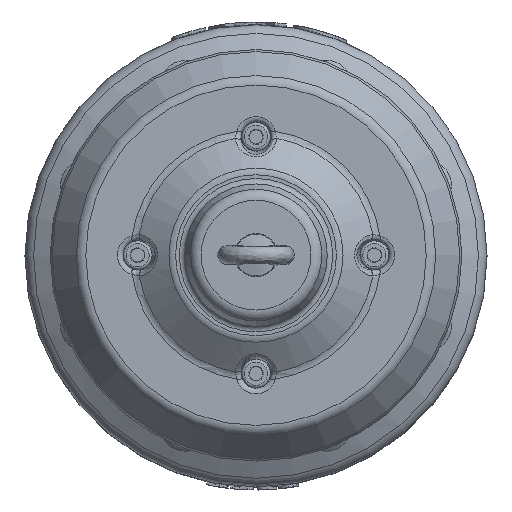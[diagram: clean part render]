
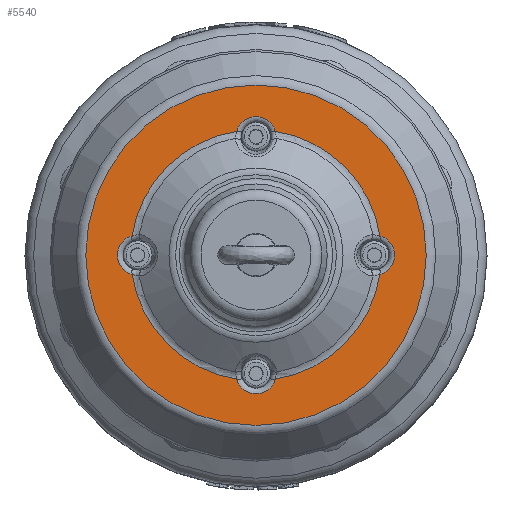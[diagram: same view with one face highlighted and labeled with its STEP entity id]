
A CAD part, top view. The second image highlights one B-rep face of the part: STEP entity #5540.
In plain terms, the highlighted planar face has unit normal (0, 0, 1).
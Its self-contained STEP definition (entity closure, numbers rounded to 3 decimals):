
#5540=ADVANCED_FACE('',(#23306,#23308),#23310,.T.);
#23306=FACE_BOUND('',#23307,.T.);
#23307=EDGE_LOOP('',(#64766));
#23308=FACE_BOUND('',#23309,.T.);
#23309=EDGE_LOOP('',(#64767,#64768,#64769,#64770,#64771,#64772,#64773,#64774));
#23310=PLANE('',#23311);
#23311=AXIS2_PLACEMENT_3D('',#23312,#23313,#23314);
#23312=CARTESIAN_POINT('',(0.,0.,36.595));
#23313=DIRECTION('',(0.,0.,1.));
#23314=DIRECTION('',(-1.,0.,0.));
#64766=ORIENTED_EDGE('',*,*,#69449,.F.);
#64767=ORIENTED_EDGE('',*,*,#69385,.T.);
#64768=ORIENTED_EDGE('',*,*,#69450,.F.);
#64769=ORIENTED_EDGE('',*,*,#69416,.T.);
#64770=ORIENTED_EDGE('',*,*,#69451,.F.);
#64771=ORIENTED_EDGE('',*,*,#69406,.T.);
#64772=ORIENTED_EDGE('',*,*,#69452,.F.);
#64773=ORIENTED_EDGE('',*,*,#69396,.T.);
#64774=ORIENTED_EDGE('',*,*,#69453,.F.);
#69385=EDGE_CURVE('',#74556,#74557,#74558,.T.);
#69396=EDGE_CURVE('',#74576,#74577,#74578,.T.);
#69406=EDGE_CURVE('',#74594,#74595,#74596,.T.);
#69416=EDGE_CURVE('',#74612,#74613,#74614,.T.);
#69449=EDGE_CURVE('',#74668,#74668,#74669,.T.);
#69450=EDGE_CURVE('',#74612,#74557,#74670,.F.);
#69451=EDGE_CURVE('',#74594,#74613,#74671,.F.);
#69452=EDGE_CURVE('',#74576,#74595,#74672,.F.);
#69453=EDGE_CURVE('',#74556,#74577,#74673,.F.);
#74556=VERTEX_POINT('',#106175);
#74557=VERTEX_POINT('',#106176);
#74558=CIRCLE('',#106177,86.838);
#74576=VERTEX_POINT('',#106408);
#74577=VERTEX_POINT('',#106409);
#74578=CIRCLE('',#106410,86.838);
#74594=VERTEX_POINT('',#106629);
#74595=VERTEX_POINT('',#106630);
#74596=CIRCLE('',#106631,86.838);
#74612=VERTEX_POINT('',#106850);
#74613=VERTEX_POINT('',#106851);
#74614=CIRCLE('',#106852,86.838);
#74668=VERTEX_POINT('',#107585);
#74669=CIRCLE('',#107586,117.836);
#74670=CIRCLE('',#107590,13.943);
#74671=CIRCLE('',#107594,13.943);
#74672=CIRCLE('',#107598,13.943);
#74673=CIRCLE('',#107602,13.943);
#106175=CARTESIAN_POINT('',(-85.795,13.417,36.595));
#106176=CARTESIAN_POINT('',(-13.417,85.795,36.595));
#106177=AXIS2_PLACEMENT_3D('',#106178,#106179,#106180);
#106178=CARTESIAN_POINT('',(0.,0.,36.595));
#106179=DIRECTION('',(0.,0.,-1.));
#106180=DIRECTION('',(-0.988,0.155,0.));
#106408=CARTESIAN_POINT('',(-13.417,-85.795,36.595));
#106409=CARTESIAN_POINT('',(-85.795,-13.417,36.595));
#106410=AXIS2_PLACEMENT_3D('',#106411,#106412,#106413);
#106411=CARTESIAN_POINT('',(0.,0.,36.595));
#106412=DIRECTION('',(0.,0.,-1.));
#106413=DIRECTION('',(-0.155,-0.988,0.));
#106629=CARTESIAN_POINT('',(85.795,-13.417,36.595));
#106630=CARTESIAN_POINT('',(13.417,-85.795,36.595));
#106631=AXIS2_PLACEMENT_3D('',#106632,#106633,#106634);
#106632=CARTESIAN_POINT('',(0.,0.,36.595));
#106633=DIRECTION('',(0.,0.,-1.));
#106634=DIRECTION('',(0.988,-0.155,0.));
#106850=CARTESIAN_POINT('',(13.417,85.795,36.595));
#106851=CARTESIAN_POINT('',(85.795,13.417,36.595));
#106852=AXIS2_PLACEMENT_3D('',#106853,#106854,#106855);
#106853=CARTESIAN_POINT('',(0.,0.,36.595));
#106854=DIRECTION('',(0.,0.,-1.));
#106855=DIRECTION('',(0.155,0.988,0.));
#107585=CARTESIAN_POINT('',(-117.836,0.,36.595));
#107586=AXIS2_PLACEMENT_3D('',#107587,#107588,#107589);
#107587=CARTESIAN_POINT('',(0.,0.,36.595));
#107588=DIRECTION('',(0.,0.,-1.));
#107589=DIRECTION('',(-1.,0.,0.));
#107590=AXIS2_PLACEMENT_3D('',#107591,#107592,#107593);
#107591=CARTESIAN_POINT('',(0.,82.,36.595));
#107592=DIRECTION('',(0.,0.,-1.));
#107593=DIRECTION('',(-0.962,0.272,0.));
#107594=AXIS2_PLACEMENT_3D('',#107595,#107596,#107597);
#107595=CARTESIAN_POINT('',(82.,0.,36.595));
#107596=DIRECTION('',(0.,0.,-1.));
#107597=DIRECTION('',(0.272,0.962,0.));
#107598=AXIS2_PLACEMENT_3D('',#107599,#107600,#107601);
#107599=CARTESIAN_POINT('',(0.,-82.,36.595));
#107600=DIRECTION('',(0.,0.,-1.));
#107601=DIRECTION('',(0.962,-0.272,0.));
#107602=AXIS2_PLACEMENT_3D('',#107603,#107604,#107605);
#107603=CARTESIAN_POINT('',(-82.,0.,36.595));
#107604=DIRECTION('',(0.,0.,-1.));
#107605=DIRECTION('',(-0.272,-0.962,0.));
